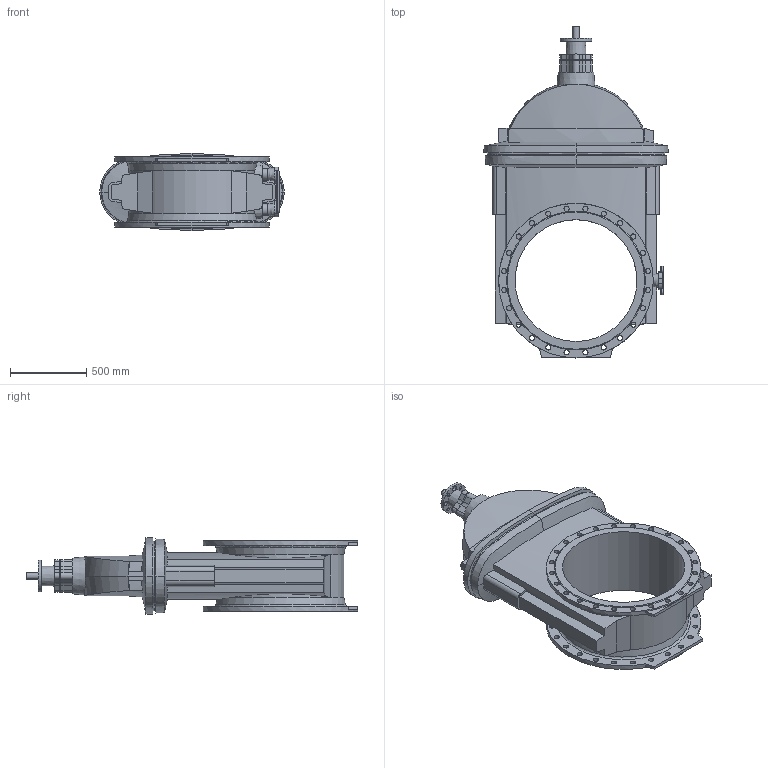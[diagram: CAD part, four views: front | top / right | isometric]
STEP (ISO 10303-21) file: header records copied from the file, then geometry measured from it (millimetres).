
FILE_DESCRIPTION (( 'STEP AP203' ), '1' );
FILE_NAME ('O_06_30_DN800_00464_AA0.step', '2018-08-31T05:57:47', ( 'Windows User' ), ( 'AVK' ), 'SwSTEP 2.0', 'SolidWorks 2012', '' );
FILE_SCHEMA (( 'CONFIG_CONTROL_DESIGN' ));
Length unit declared in the file: millimetre
Products named in the file (1): O_06_30_DN800_00464_AA0
Bounding box: 1212 x 2179.5 x 506 mm (x, y, z)
Volume: 330467988 mm3; surface area: 7034815.3 mm2
Topology: 2 solids, 2 shells, 398 faces, 1146 edges, 766 vertices
Faces by surface type: cylinder 165, plane 158, cone 39, bspline 34, torus 2
Full cylindrical faces by diameter (mm): 22 x4, 33 x4, 34 x48, 40 x1, 75 x2, 78 x2, 210 x1, 800 x1, 1015 x2
Entity records: 16016 total; most frequent: CARTESIAN_POINT 6239, ORIENTED_EDGE 2026, DIRECTION 1839, EDGE_CURVE 1013, AXIS2_PLACEMENT_3D 718, VERTEX_POINT 708, EDGE_LOOP 601, FACE_OUTER_BOUND 467
